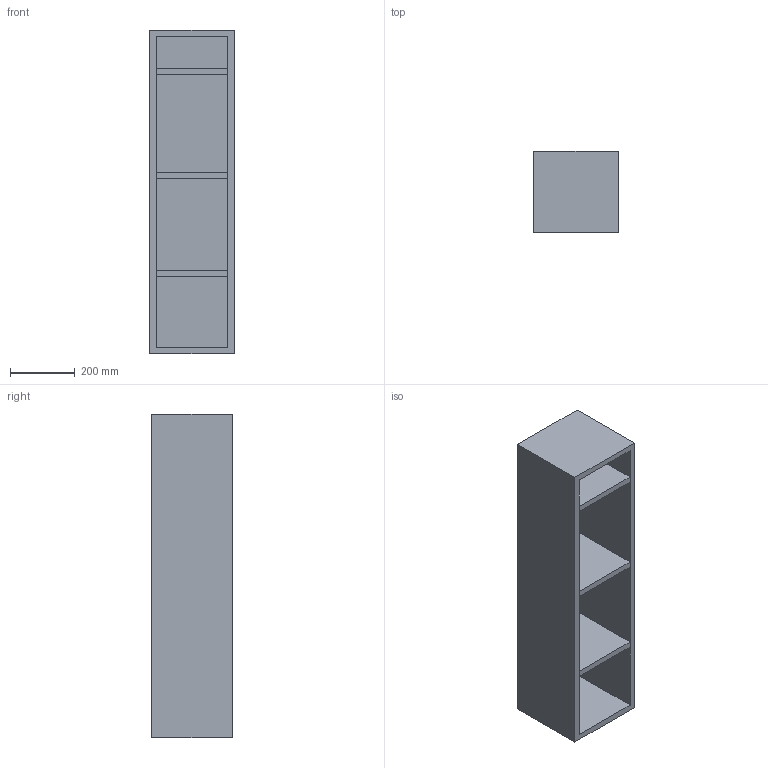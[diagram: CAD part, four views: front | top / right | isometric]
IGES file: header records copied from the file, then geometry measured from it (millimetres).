
Global section: file name: \\Archi-NAS\Comune\X GIOVANNI\MOBILI\BOISERIE + NICHE + COVERWALL\COVERWALL 250.igs; native system: Rhinoceros ( Jan 17 2018 ); preprocessor: Trout Lake IGES 012 Jan 17 2018; date: 230608.093606; units: millimetre
Bounding box: 260 x 250 x 1000 mm (x, y, z)
Surface area: 2146326 mm2 (no closed solid volume)
Topology: 0 solids, 0 shells, 34 faces, 144 edges, 144 vertices
Faces by surface type: bspline 34
